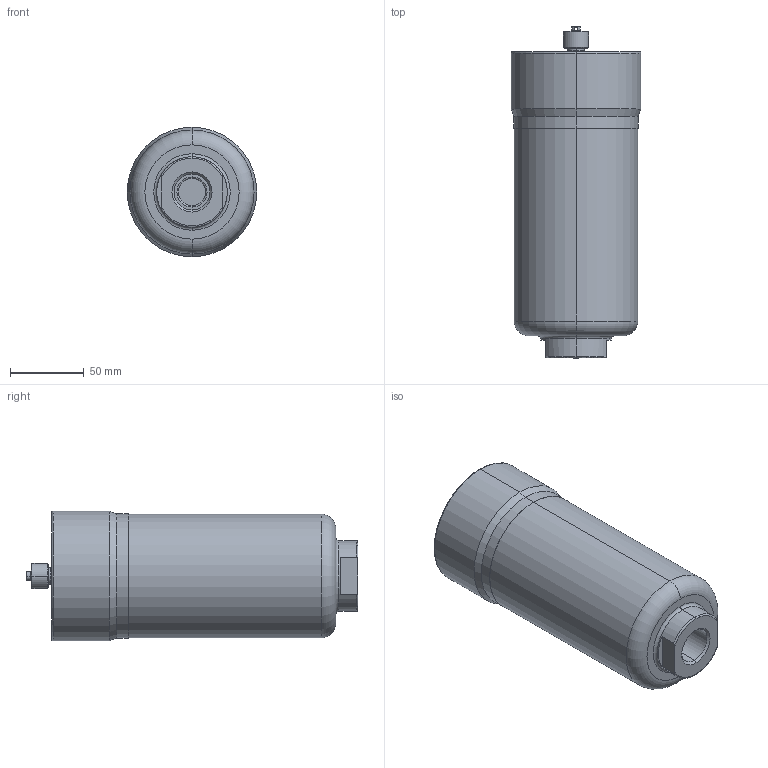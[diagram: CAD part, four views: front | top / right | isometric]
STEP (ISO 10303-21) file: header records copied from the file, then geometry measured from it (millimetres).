
FILE_DESCRIPTION (( 'STEP AP214' ), '1' );
FILE_NAME ('U007A05X1-AI.STEP', '2025-05-28T10:13:33', ( '' ), ( '' ), 'SwSTEP 2.0', 'SolidWorks 2024', '' );
FILE_SCHEMA (( 'AUTOMOTIVE_DESIGN' ));
Length unit declared in the file: millimetre
Products named in the file (1): U007A05X1-AI
Bounding box: 88 x 225.48 x 88 mm (x, y, z)
Volume: 1071746.6 mm3; surface area: 75037.5 mm2
Topology: 6 solids, 6 shells, 246 faces, 540 edges, 318 vertices
Faces by surface type: plane 88, cylinder 70, torus 47, cone 38, sphere 3
Entity records: 6917 total; most frequent: DIRECTION 1293, CARTESIAN_POINT 1288, ORIENTED_EDGE 1062, AXIS2_PLACEMENT_3D 537, EDGE_CURVE 531, VERTEX_POINT 318, CIRCLE 290, EDGE_LOOP 281
